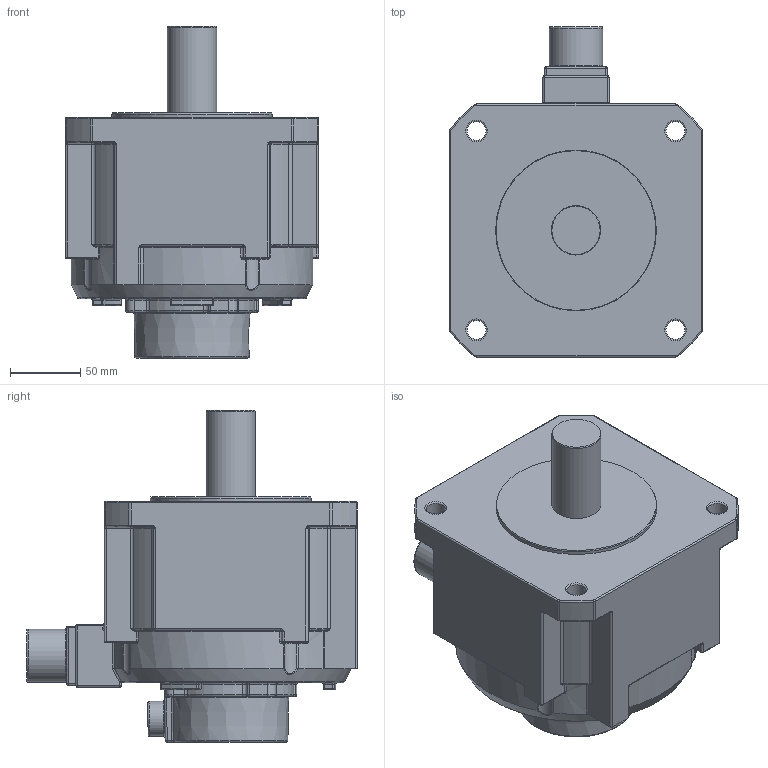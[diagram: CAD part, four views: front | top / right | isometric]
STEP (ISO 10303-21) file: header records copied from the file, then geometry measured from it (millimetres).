
FILE_DESCRIPTION(/* description */ (''),/* implementation_level */ '2;1');
FILE_NAME(/* name */ '01-180BAH19015.stp',/* time_stamp */ '2020-08-27T15:27:33+08:00',/* author */ (''),/* organization */ (''),/* preprocessor_version */ 'ST-DEVELOPER v16',/* originating_system */ 'SIEMENS PLM Software NX 10.0',/* authorisation */ '');
FILE_SCHEMA (('CONFIG_CONTROL_DESIGN'));
Length unit declared in the file: millimetre
Products named in the file (1): 01-180BAH19015
Bounding box: 180 x 235 x 236 mm (x, y, z)
Volume: 3943359.7 mm3; surface area: 178203.8 mm2
Topology: 1 solids, 1 shells, 607 faces, 1433 edges, 783 vertices
Faces by surface type: cylinder 235, torus 177, bspline 90, plane 75, sphere 22, cone 8
Full cylindrical faces by diameter (mm): 6.8 x2, 13.5 x4, 25 x1, 35 x1, 38 x1, 114.3 x1
Entity records: 19487 total; most frequent: CARTESIAN_POINT 6036, DIRECTION 3045, ORIENTED_EDGE 2694, EDGE_CURVE 1347, AXIS2_PLACEMENT_3D 1325, CIRCLE 797, VERTEX_POINT 780, EDGE_LOOP 651
